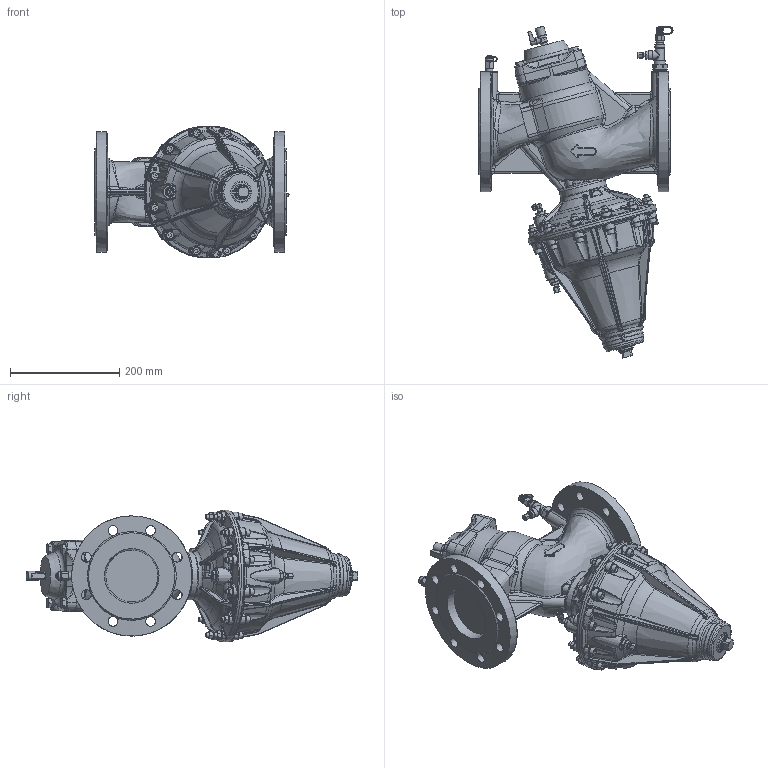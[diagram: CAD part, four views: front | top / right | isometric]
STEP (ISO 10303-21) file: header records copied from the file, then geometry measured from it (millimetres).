
FILE_DESCRIPTION (( 'STEP AP203' ), '1' );
FILE_NAME ('DL10016.STEP', '2014-10-02T09:07:23', ( 'luca.saino' ), ( 'Hewlett-Packard Company' ), 'SwSTEP 2.0', 'SolidWorks 2012', '' );
FILE_SCHEMA (( 'CONFIG_CONTROL_DESIGN' ));
Products named in the file (1): DL10016
Bounding box: 355.29 x 607.76 x 241.52 mm (x, y, z)
Volume: 12448683.7 mm3; surface area: 643245.6 mm2
Topology: 1 solids, 40 shells, 3073 faces, 7339 edges, 4374 vertices
Faces by surface type: bspline 1164, plane 753, cone 459, cylinder 455, torus 215, sphere 27
Full cylindrical faces by diameter (mm): 3.268 x1, 4 x3, 4.4 x1, 5.396 x2, 6.5 x1, 6.75 x3, 7.4 x2, 7.895 x1, 8 x36, 8.5 x24, 8.9 x2, 9.6 x1, 9.7 x1, 9.8 x3, 9.867 x1, 10 x4, 10.322 x2, 10.371 x1, 11 x4, 11.7 x1, 12 x1, 13 x12, 13.15 x1, 13.157 x1, 13.711 x1, 14 x2, 15 x1, 15.6 x1, 16 x2, 16.5 x1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
Entity records: 147817 total; most frequent: CARTESIAN_POINT 88517, ORIENTED_EDGE 13866, DIRECTION 9863, EDGE_CURVE 6933, AXIS2_PLACEMENT_3D 4286, VERTEX_POINT 4218, EDGE_LOOP 3441, FACE_OUTER_BOUND 3228
